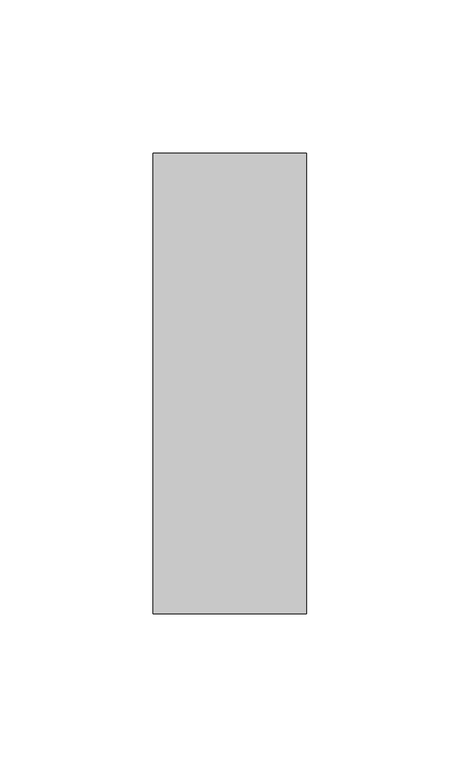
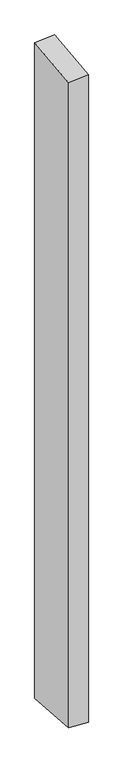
"""IFC4 building model written with IfcOpenShell, lengths in millimetres: member geometry, Прямоугольный импост : 50 x 150 мм."""

from ifc_helpers import new_model, si_unit, origin, place, context, project, spatial, faceted_brep, source, transform, mapped, element, save


def member_b9eceddc(model_context):
    return source(origin(), model_context, "Body", "Brep", [
        faceted_brep([(-25.0, 75.0, 6.9143004), (25.0, 75.0, 9.9771846), (25.0, 75.0, -1761.0253142), (-25.0, 75.0, -1758.5742117), (-25.0, -75.0, -9.9771846), (-25.0, -75.0, -1746.3755555), (25.0, -75.0, -6.9143004), (25.0, -75.0, -1748.826658)], [[[0, 1, 2, 3]], [[4, 0, 3, 5]], [[6, 4, 5, 7]], [[1, 6, 7, 2]], [[1, 0, 4, 6]], [[2, 7, 5, 3]]]),
    ])


if __name__ == "__main__":
    model = new_model("IFC4")
    model_context = context("Model", 3, world=origin())
    ifc_project = project(units=[si_unit("LENGTHUNIT", "METRE", prefix="MILLI")], contexts=[model_context])
    site = spatial("IfcSite", under=ifc_project)
    building = spatial("IfcBuilding", under=site)
    placement = place(None, origin())
    member_shape = member_b9eceddc(model_context)
    element("IfcMember", 1, ObjectType="Прямоугольный импост : 50 x 150 мм", at=placement, inside=building, context=model_context, shape_type="MappedRepresentation", body=[
        mapped(member_shape, transform((0.0, 0.0, 0.0), x_axis=(1.0, 0.0, 0.0), y_axis=(0.0, 1.0, 0.0), z_axis=(0.0, 0.0, 1.0))),
    ])
    save(model, "model.ifc")
